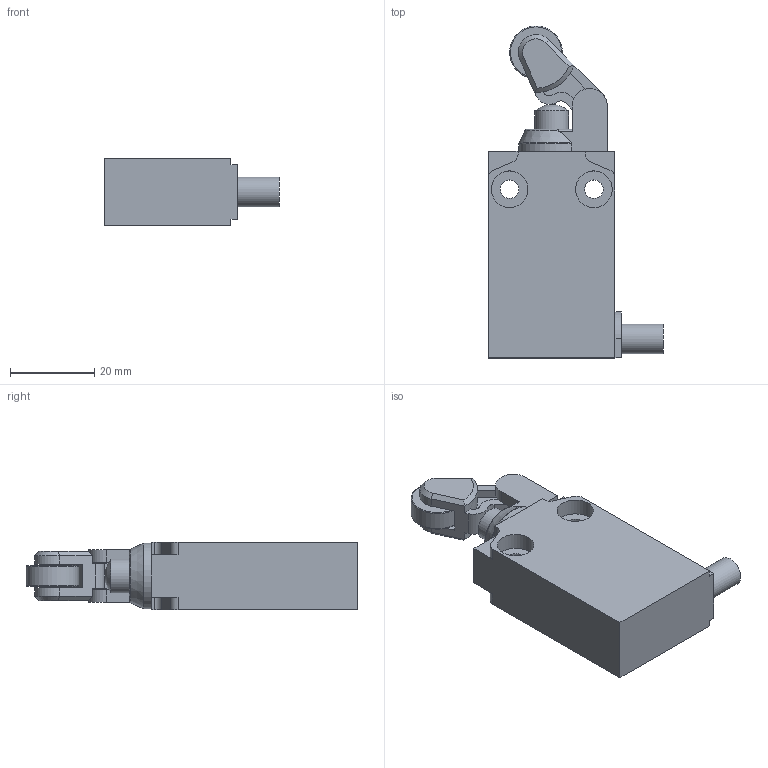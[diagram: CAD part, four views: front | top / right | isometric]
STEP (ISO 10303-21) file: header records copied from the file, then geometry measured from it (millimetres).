
FILE_DESCRIPTION(/* description */ (''),/* implementation_level */ '2;1');
FILE_NAME(/* name */ 'C:\Users\servizio.tecnico\Desktop\CADENAS\3D\EP1_STP\STP_EP1_G31U.stp',/* time_stamp */ '2017-09-01T08:20:10+02:00',/* author */ ('servizio.tecnico'),/* organization */ (''),/* preprocessor_version */ 'ST-DEVELOPER v16.1',/* originating_system */ 'Autodesk Inventor 2016',/* authorisation */ '');
FILE_SCHEMA (('AUTOMOTIVE_DESIGN { 1 0 10303 214 3 1 1 }'));
Length unit declared in the file: millimetre
Products named in the file (3): Product; EP1G31; BASE ASSI 
Assembly tree (2 placements, depth 3):
  BASE ASSI 
    EP1G31
      Product
Bounding box: 41.5 x 78.73 x 16 mm (x, y, z)
Volume: 26290 mm3; surface area: 10222.9 mm2
Topology: 5 solids, 5 shells, 142 faces, 360 edges, 237 vertices
Faces by surface type: plane 85, cylinder 47, cone 5, torus 4, sphere 1
Full cylindrical faces by diameter (mm): 4.4 x2, 7 x2, 7.8 x2, 7.95 x1, 8.05 x1, 8.7 x4, 12.5 x1
Entity records: 4406 total; most frequent: CARTESIAN_POINT 776, DIRECTION 735, ORIENTED_EDGE 676, EDGE_CURVE 338, AXIS2_PLACEMENT_3D 260, VERTEX_POINT 232, LINE 215, VECTOR 215
